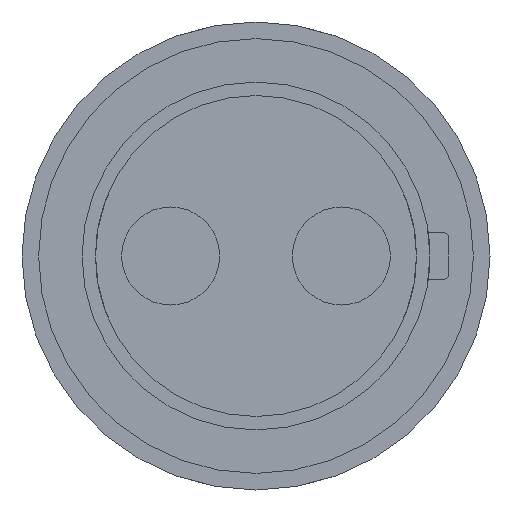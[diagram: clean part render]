
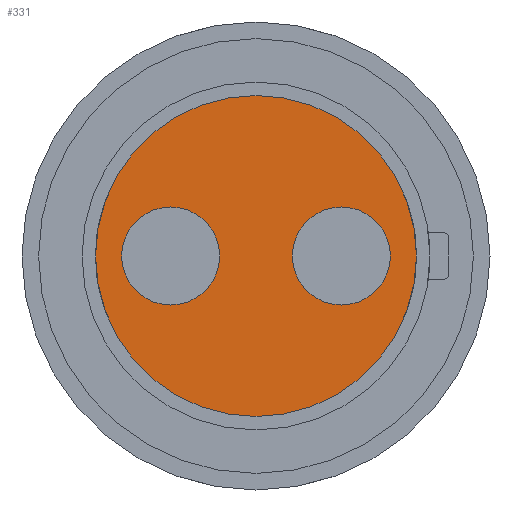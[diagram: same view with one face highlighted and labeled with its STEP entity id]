
A CAD part, front view. The second image highlights one B-rep face of the part: STEP entity #331.
In plain terms, the highlighted planar face has unit normal (0, -1, 0).
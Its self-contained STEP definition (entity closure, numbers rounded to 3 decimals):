
#8 = VERTEX_POINT ( 'NONE', #1483 ) ;
#91 = CARTESIAN_POINT ( 'NONE',  ( 10.15, -43.5, 0. ) ) ;
#99 = PLANE ( 'NONE',  #254 ) ;
#108 = VERTEX_POINT ( 'NONE', #803 ) ;
#157 = AXIS2_PLACEMENT_3D ( 'NONE', #1066, #561, #378 ) ;
#182 = AXIS2_PLACEMENT_3D ( 'NONE', #886, #883, #871 ) ;
#229 = VERTEX_POINT ( 'NONE', #664 ) ;
#254 = AXIS2_PLACEMENT_3D ( 'NONE', #91, #1453, #1045 ) ;
#291 = CIRCLE ( 'NONE', #919, 3.1 ) ;
#314 = FACE_BOUND ( 'NONE', #1637, .T. ) ;
#331 = ADVANCED_FACE ( 'NONE', ( #314, #1561, #779 ), #99, .T. ) ;
#336 = EDGE_CURVE ( 'NONE', #1054, #619, #915, .T. ) ;
#378 = DIRECTION ( 'NONE',  ( 1., 0., 0. ) ) ;
#449 = ORIENTED_EDGE ( 'NONE', *, *, #1097, .F. ) ;
#561 = DIRECTION ( 'NONE',  ( 0., -1., 0. ) ) ;
#619 = VERTEX_POINT ( 'NONE', #1673 ) ;
#661 = AXIS2_PLACEMENT_3D ( 'NONE', #699, #691, #678 ) ;
#664 = CARTESIAN_POINT ( 'NONE',  ( -8.5, -43.5, 0. ) ) ;
#677 = CARTESIAN_POINT ( 'NONE',  ( -10.15, -43.5, 0. ) ) ;
#678 = DIRECTION ( 'NONE',  ( 1., 0., 0. ) ) ;
#691 = DIRECTION ( 'NONE',  ( 0., -1., 0. ) ) ;
#699 = CARTESIAN_POINT ( 'NONE',  ( 0., -43.5, 0. ) ) ;
#779 = FACE_OUTER_BOUND ( 'NONE', #1710, .T. ) ;
#803 = CARTESIAN_POINT ( 'NONE',  ( 10.15, -43.5, 0. ) ) ;
#814 = DIRECTION ( 'NONE',  ( 1., 0., 0. ) ) ;
#846 = CARTESIAN_POINT ( 'NONE',  ( 5.4, -43.5, 0. ) ) ;
#860 = CIRCLE ( 'NONE', #1594, 10.15 ) ;
#871 = DIRECTION ( 'NONE',  ( 1., 0., 0. ) ) ;
#883 = DIRECTION ( 'NONE',  ( 0., -1., 0. ) ) ;
#886 = CARTESIAN_POINT ( 'NONE',  ( -5.4, -43.5, 0. ) ) ;
#915 = CIRCLE ( 'NONE', #157, 3.1 ) ;
#919 = AXIS2_PLACEMENT_3D ( 'NONE', #964, #1633, #814 ) ;
#964 = CARTESIAN_POINT ( 'NONE',  ( -5.4, -43.5, 0. ) ) ;
#973 = ORIENTED_EDGE ( 'NONE', *, *, #1027, .T. ) ;
#1009 = AXIS2_PLACEMENT_3D ( 'NONE', #846, #1095, #1390 ) ;
#1027 = EDGE_CURVE ( 'NONE', #108, #1662, #860, .T. ) ;
#1045 = DIRECTION ( 'NONE',  ( 1., 0., 0. ) ) ;
#1054 = VERTEX_POINT ( 'NONE', #1260 ) ;
#1066 = CARTESIAN_POINT ( 'NONE',  ( 5.4, -43.5, 0. ) ) ;
#1095 = DIRECTION ( 'NONE',  ( 0., -1., 0. ) ) ;
#1097 = EDGE_CURVE ( 'NONE', #229, #8, #1330, .T. ) ;
#1124 = ORIENTED_EDGE ( 'NONE', *, *, #1397, .F. ) ;
#1125 = EDGE_CURVE ( 'NONE', #1662, #108, #1133, .T. ) ;
#1133 = CIRCLE ( 'NONE', #661, 10.15 ) ;
#1260 = CARTESIAN_POINT ( 'NONE',  ( 2.3, -43.5, 0. ) ) ;
#1299 = ORIENTED_EDGE ( 'NONE', *, *, #1125, .T. ) ;
#1330 = CIRCLE ( 'NONE', #182, 3.1 ) ;
#1390 = DIRECTION ( 'NONE',  ( 1., 0., 0. ) ) ;
#1392 = EDGE_CURVE ( 'NONE', #8, #229, #291, .T. ) ;
#1397 = EDGE_CURVE ( 'NONE', #619, #1054, #1427, .T. ) ;
#1427 = CIRCLE ( 'NONE', #1009, 3.1 ) ;
#1453 = DIRECTION ( 'NONE',  ( 0., -1., 0. ) ) ;
#1483 = CARTESIAN_POINT ( 'NONE',  ( -2.3, -43.5, 0. ) ) ;
#1506 = DIRECTION ( 'NONE',  ( 1., 0., 0. ) ) ;
#1510 = DIRECTION ( 'NONE',  ( 0., -1., 0. ) ) ;
#1511 = ORIENTED_EDGE ( 'NONE', *, *, #336, .F. ) ;
#1527 = CARTESIAN_POINT ( 'NONE',  ( 0., -43.5, 0. ) ) ;
#1561 = FACE_BOUND ( 'NONE', #1584, .T. ) ;
#1584 = EDGE_LOOP ( 'NONE', ( #1124, #1511 ) ) ;
#1594 = AXIS2_PLACEMENT_3D ( 'NONE', #1527, #1510, #1506 ) ;
#1633 = DIRECTION ( 'NONE',  ( 0., -1., 0. ) ) ;
#1637 = EDGE_LOOP ( 'NONE', ( #1707, #449 ) ) ;
#1662 = VERTEX_POINT ( 'NONE', #677 ) ;
#1673 = CARTESIAN_POINT ( 'NONE',  ( 8.5, -43.5, 0. ) ) ;
#1707 = ORIENTED_EDGE ( 'NONE', *, *, #1392, .F. ) ;
#1710 = EDGE_LOOP ( 'NONE', ( #973, #1299 ) ) ;
